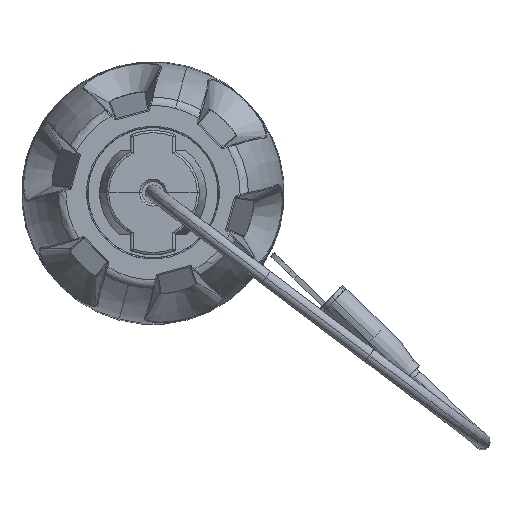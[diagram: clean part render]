
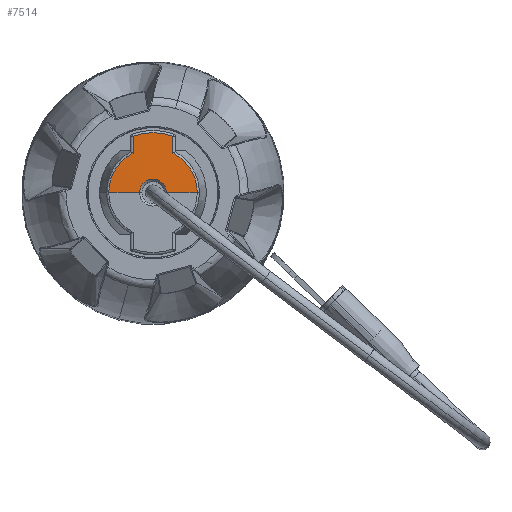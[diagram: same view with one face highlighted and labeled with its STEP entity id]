
A CAD part, top view. The second image highlights one B-rep face of the part: STEP entity #7514.
In plain terms, the highlighted conical face has half-angle 89 degrees and reference radius 57290 mm.
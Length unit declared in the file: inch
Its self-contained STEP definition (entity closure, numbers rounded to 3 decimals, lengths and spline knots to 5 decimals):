
#87 = CARTESIAN_POINT ( 'NONE',  ( 0., 0., 1.08268 ) ) ;
#536 = FACE_OUTER_BOUND ( 'NONE', #14749, .T. ) ;
#636 = EDGE_CURVE ( 'NONE', #12158, #5143, #17256, .T. ) ;
#942 = CARTESIAN_POINT ( 'NONE',  ( 0., 0., 1.08268 ) ) ;
#1188 = EDGE_CURVE ( 'NONE', #17028, #10420, #8116, .T. ) ;
#1892 = CARTESIAN_POINT ( 'NONE',  ( -0.08472, 0.16731, 1.0794 ) ) ;
#2050 = CARTESIAN_POINT ( 'NONE',  ( 0.08471, 0.2084, 1.07875 ) ) ;
#2841 = CARTESIAN_POINT ( 'NONE',  ( 0., 0., 1.07824 ) ) ;
#3127 = CARTESIAN_POINT ( 'NONE',  ( -0.0847, 0.23302, 1.07835 ) ) ;
#3214 = CARTESIAN_POINT ( 'NONE',  ( -0.08472, 0.16731, 1.0794 ) ) ;
#3261 = EDGE_CURVE ( 'NONE', #12158, #14248, #17450, .T. ) ;
#3311 = CARTESIAN_POINT ( 'NONE',  ( -0.0847, 0.23958, 1.07824 ) ) ;
#3409 = CARTESIAN_POINT ( 'NONE',  ( 0.08472, 0.18101, 1.07919 ) ) ;
#4504 = CARTESIAN_POINT ( 'NONE',  ( 0., 0., 1.0794 ) ) ;
#4608 = CIRCLE ( 'NONE', #11510, 0.25411 ) ;
#4638 = DIRECTION ( 'NONE',  ( 1., 0., 0. ) ) ;
#4770 = CARTESIAN_POINT ( 'NONE',  ( 0.08472, 0.16731, 1.0794 ) ) ;
#5143 = VERTEX_POINT ( 'NONE', #12819 ) ;
#5323 = VERTEX_POINT ( 'NONE', #6509 ) ;
#5390 = DIRECTION ( 'NONE',  ( 1., 0., 0. ) ) ;
#5470 = VECTOR ( 'NONE', #17658, 39.37008 ) ;
#5648 = DIRECTION ( 'NONE',  ( 0., 0., -1. ) ) ;
#5733 = DIRECTION ( 'NONE',  ( -1., 0., 0. ) ) ;
#5989 = CARTESIAN_POINT ( 'NONE',  ( 0.08472, 0.16731, 1.0794 ) ) ;
#6119 = CARTESIAN_POINT ( 'NONE',  ( -0.08471, 0.19365, 1.07899 ) ) ;
#6385 = B_SPLINE_CURVE_WITH_KNOTS ( 'NONE', 3,
 ( #3311, #3127, #8918, #11224, #12580, #6119, #16865, #15347, #16958, #3214 ),
 .UNSPECIFIED., .F., .F.,
 ( 4, 3, 3, 4 ),
 ( 0., 0.0005, 0.0015, 0.00184 ),
 .UNSPECIFIED. ) ;
#6395 = AXIS2_PLACEMENT_3D ( 'NONE', #16928, #8792, #4638 ) ;
#6509 = CARTESIAN_POINT ( 'NONE',  ( -0.0847, 0.23958, 1.07824 ) ) ;
#6672 = AXIS2_PLACEMENT_3D ( 'NONE', #4504, #10107, #14118 ) ;
#6746 = CIRCLE ( 'NONE', #15328, 0.18754 ) ;
#7514 = ADVANCED_FACE ( 'NONE', ( #536 ), #14352, .T. ) ;
#7556 = CARTESIAN_POINT ( 'NONE',  ( 0.08471, 0.21879, 1.07858 ) ) ;
#7958 = EDGE_CURVE ( 'NONE', #5143, #17028, #16238, .T. ) ;
#7959 = EDGE_CURVE ( 'NONE', #14322, #5323, #4608, .T. ) ;
#8050 = DIRECTION ( 'NONE',  ( -1., 0., -0.017 ) ) ;
#8116 = CIRCLE ( 'NONE', #6672, 0.18754 ) ;
#8271 = CARTESIAN_POINT ( 'NONE',  ( -0.05709, 0., 1.08168 ) ) ;
#8327 = VERTEX_POINT ( 'NONE', #1892 ) ;
#8792 = DIRECTION ( 'NONE',  ( 0., 0., -1. ) ) ;
#8918 = CARTESIAN_POINT ( 'NONE',  ( -0.08471, 0.22645, 1.07846 ) ) ;
#8924 = CARTESIAN_POINT ( 'NONE',  ( 0.08471, 0.1947, 1.07897 ) ) ;
#9945 = VECTOR ( 'NONE', #8050, 39.37008 ) ;
#10107 = DIRECTION ( 'NONE',  ( 0., 0., 1. ) ) ;
#10257 = CARTESIAN_POINT ( 'NONE',  ( 0.0847, 0.23958, 1.07824 ) ) ;
#10420 = VERTEX_POINT ( 'NONE', #5989 ) ;
#10587 = DIRECTION ( 'NONE',  ( 1., 0., 0. ) ) ;
#11224 = CARTESIAN_POINT ( 'NONE',  ( -0.08471, 0.21989, 1.07856 ) ) ;
#11398 = EDGE_CURVE ( 'NONE', #10420, #14322, #11671, .T. ) ;
#11492 = CARTESIAN_POINT ( 'NONE',  ( 0., 0., -38.2874 ) ) ;
#11510 = AXIS2_PLACEMENT_3D ( 'NONE', #2841, #13732, #5390 ) ;
#11660 = CARTESIAN_POINT ( 'NONE',  ( 0., 0., 1.0794 ) ) ;
#11671 = B_SPLINE_CURVE_WITH_KNOTS ( 'NONE', 3,
 ( #4770, #3409, #8924, #2050, #7556, #12723, #14251 ),
 .UNSPECIFIED., .F., .F.,
 ( 4, 3, 4 ),
 ( 0., 0.00104, 0.00184 ),
 .UNSPECIFIED. ) ;
#11800 = ORIENTED_EDGE ( 'NONE', *, *, #3261, .F. ) ;
#12158 = VERTEX_POINT ( 'NONE', #8271 ) ;
#12356 = AXIS2_PLACEMENT_3D ( 'NONE', #11492, #5648, #5733 ) ;
#12525 = ORIENTED_EDGE ( 'NONE', *, *, #636, .T. ) ;
#12580 = CARTESIAN_POINT ( 'NONE',  ( -0.08471, 0.20677, 1.07878 ) ) ;
#12723 = CARTESIAN_POINT ( 'NONE',  ( 0.08471, 0.22919, 1.07841 ) ) ;
#12783 = ORIENTED_EDGE ( 'NONE', *, *, #13713, .T. ) ;
#12819 = CARTESIAN_POINT ( 'NONE',  ( 0.05709, 0., 1.08168 ) ) ;
#13362 = EDGE_CURVE ( 'NONE', #5323, #8327, #6385, .T. ) ;
#13699 = ORIENTED_EDGE ( 'NONE', *, *, #7959, .T. ) ;
#13713 = EDGE_CURVE ( 'NONE', #8327, #14248, #6746, .T. ) ;
#13732 = DIRECTION ( 'NONE',  ( 0., 0., 1. ) ) ;
#13771 = ORIENTED_EDGE ( 'NONE', *, *, #7958, .T. ) ;
#14118 = DIRECTION ( 'NONE',  ( 1., 0., 0. ) ) ;
#14248 = VERTEX_POINT ( 'NONE', #14907 ) ;
#14251 = CARTESIAN_POINT ( 'NONE',  ( 0.0847, 0.23958, 1.07824 ) ) ;
#14322 = VERTEX_POINT ( 'NONE', #10257 ) ;
#14352 = CONICAL_SURFACE ( 'NONE', #12356, 2255.5103, 1.553 ) ;
#14749 = EDGE_LOOP ( 'NONE', ( #12525, #13771, #15680, #17429, #13699, #16483, #12783, #11800 ) ) ;
#14907 = CARTESIAN_POINT ( 'NONE',  ( -0.18754, 0., 1.0794 ) ) ;
#15328 = AXIS2_PLACEMENT_3D ( 'NONE', #11660, #17117, #10587 ) ;
#15347 = CARTESIAN_POINT ( 'NONE',  ( -0.08472, 0.17612, 1.07927 ) ) ;
#15615 = CARTESIAN_POINT ( 'NONE',  ( 0.18754, 0., 1.0794 ) ) ;
#15680 = ORIENTED_EDGE ( 'NONE', *, *, #1188, .T. ) ;
#16238 = LINE ( 'NONE', #87, #5470 ) ;
#16483 = ORIENTED_EDGE ( 'NONE', *, *, #13362, .T. ) ;
#16865 = CARTESIAN_POINT ( 'NONE',  ( -0.08472, 0.18053, 1.0792 ) ) ;
#16928 = CARTESIAN_POINT ( 'NONE',  ( 0., 0., 1.08168 ) ) ;
#16958 = CARTESIAN_POINT ( 'NONE',  ( -0.08472, 0.17171, 1.07934 ) ) ;
#17028 = VERTEX_POINT ( 'NONE', #15615 ) ;
#17117 = DIRECTION ( 'NONE',  ( 0., 0., 1. ) ) ;
#17256 = CIRCLE ( 'NONE', #6395, 0.05709 ) ;
#17429 = ORIENTED_EDGE ( 'NONE', *, *, #11398, .T. ) ;
#17450 = LINE ( 'NONE', #942, #9945 ) ;
#17658 = DIRECTION ( 'NONE',  ( 1., 0., -0.017 ) ) ;
